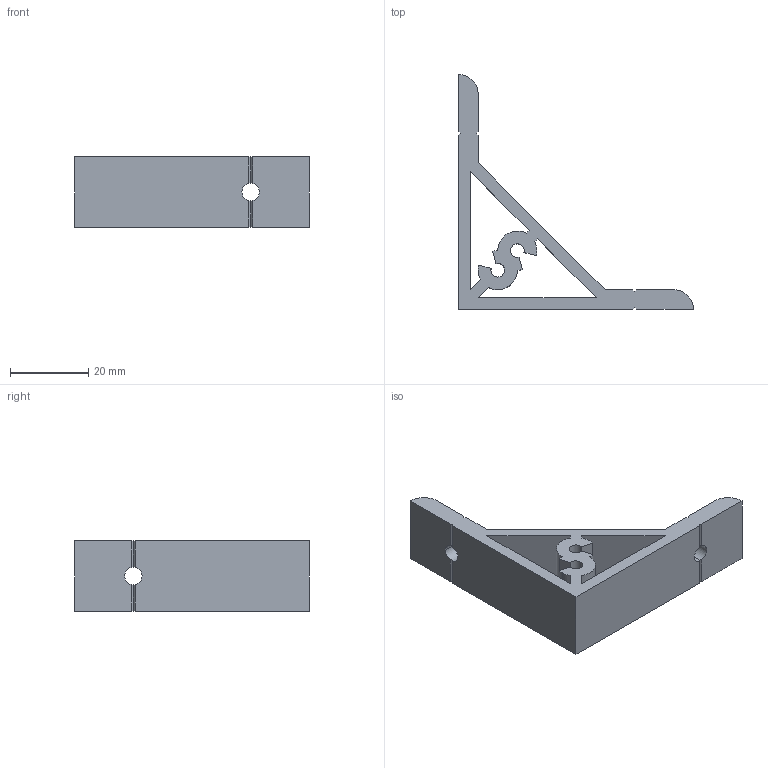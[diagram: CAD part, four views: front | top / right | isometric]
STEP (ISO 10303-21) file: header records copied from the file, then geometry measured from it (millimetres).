
FILE_DESCRIPTION (( 'STEP AP203' ), '1' );
FILE_NAME ('WL1860-4.STEP', '2024-02-17T06:23:28', ( '' ), ( '' ), 'SwSTEP 2.0', 'SolidWorks 2022', '' );
FILE_SCHEMA (( 'CONFIG_CONTROL_DESIGN' ));
Length unit declared in the file: millimetre
Products named in the file (1): WL1860-4
Bounding box: 60 x 60 x 18 mm (x, y, z)
Volume: 12210.9 mm3; surface area: 8501.7 mm2
Topology: 1 solids, 1 shells, 58 faces, 176 edges, 116 vertices
Faces by surface type: plane 39, cylinder 19
Entity records: 2063 total; most frequent: CARTESIAN_POINT 399, ORIENTED_EDGE 352, DIRECTION 320, EDGE_CURVE 176, VECTOR 118, LINE 118, VERTEX_POINT 116, AXIS2_PLACEMENT_3D 101
